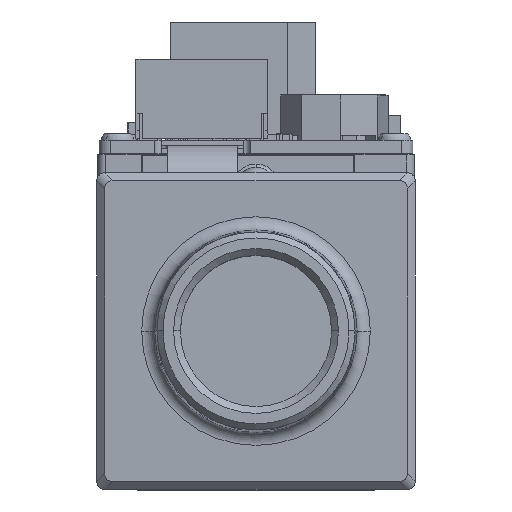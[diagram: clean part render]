
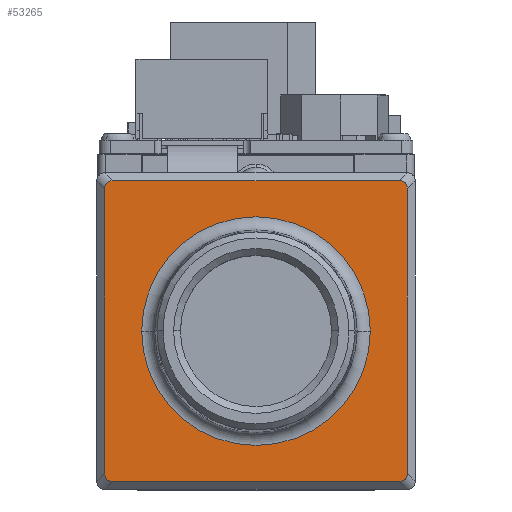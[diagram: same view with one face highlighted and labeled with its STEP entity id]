
A CAD part, top view. The second image highlights one B-rep face of the part: STEP entity #53265.
In plain terms, the highlighted planar face has unit normal (0, 0, 1).
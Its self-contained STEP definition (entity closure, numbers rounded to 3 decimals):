
#1230 = ORIENTED_EDGE ( 'NONE', *, *, #79289, .T. ) ;
#6088 = VERTEX_POINT ( 'NONE', #125257 ) ;
#6229 = EDGE_CURVE ( 'NONE', #14742, #6088, #63943, .T. ) ;
#6320 = CARTESIAN_POINT ( 'NONE',  ( 10.874, -11.4, 8. ) ) ;
#6875 = VECTOR ( 'NONE', #108490, 1000. ) ;
#7644 = EDGE_CURVE ( 'NONE', #45986, #23643, #99280, .T. ) ;
#8311 = PLANE ( 'NONE',  #26543 ) ;
#12085 = DIRECTION ( 'NONE',  ( -1., 0., 0. ) ) ;
#13673 =( BOUNDED_CURVE ( )  B_SPLINE_CURVE ( 3, ( #65181, #18564, #98002, #117811 ),
 .UNSPECIFIED., .F., .F. ) 
 B_SPLINE_CURVE_WITH_KNOTS ( ( 4, 4 ),
 ( 2.623, 3.675 ),
 .UNSPECIFIED. ) 
 CURVE ( )  GEOMETRIC_REPRESENTATION_ITEM ( )  RATIONAL_B_SPLINE_CURVE ( ( 1., 0.91, 0.91, 1. ) ) 
 REPRESENTATION_ITEM ( '' )  );
#14742 = VERTEX_POINT ( 'NONE', #144432 ) ;
#16106 = ORIENTED_EDGE ( 'NONE', *, *, #7644, .T. ) ;
#17969 = CARTESIAN_POINT ( 'NONE',  ( 11.255, -11.4, 8. ) ) ;
#18564 = CARTESIAN_POINT ( 'NONE',  ( -11.255, 11.4, 8. ) ) ;
#19366 = CARTESIAN_POINT ( 'NONE',  ( 11.475, -10.794, 8. ) ) ;
#19552 = ORIENTED_EDGE ( 'NONE', *, *, #117657, .T. ) ;
#23643 = VERTEX_POINT ( 'NONE', #46584 ) ;
#26543 = AXIS2_PLACEMENT_3D ( 'NONE', #132961, #87036, #131535 ) ;
#28496 = CARTESIAN_POINT ( 'NONE',  ( 11.475, 11.178, 8. ) ) ;
#29363 = EDGE_LOOP ( 'NONE', ( #119164, #16106 ) ) ;
#29557 = CARTESIAN_POINT ( 'NONE',  ( -11.475, 0., 8. ) ) ;
#32048 = CARTESIAN_POINT ( 'NONE',  ( 0., 11.4, 8. ) ) ;
#34210 = EDGE_CURVE ( 'NONE', #132474, #54367, #13673, .T. ) ;
#35971 = VERTEX_POINT ( 'NONE', #65020 ) ;
#36382 = AXIS2_PLACEMENT_3D ( 'NONE', #69511, #57833, #37379 ) ;
#36481 = EDGE_LOOP ( 'NONE', ( #131933, #68924, #50511, #1230, #19552, #140267, #52164, #109405 ) ) ;
#37379 = DIRECTION ( 'NONE',  ( -1., 0., 0. ) ) ;
#38893 = CARTESIAN_POINT ( 'NONE',  ( -11.475, -11.178, 8. ) ) ;
#39910 = EDGE_CURVE ( 'NONE', #54367, #35971, #76185, .T. ) ;
#45562 = AXIS2_PLACEMENT_3D ( 'NONE', #133161, #88682, #12085 ) ;
#45986 = VERTEX_POINT ( 'NONE', #58875 ) ;
#46584 = CARTESIAN_POINT ( 'NONE',  ( -8.666, 0., 8. ) ) ;
#49830 =( BOUNDED_CURVE ( )  B_SPLINE_CURVE ( 3, ( #51977, #38893, #83412, #73904 ),
 .UNSPECIFIED., .F., .T. ) 
 B_SPLINE_CURVE_WITH_KNOTS ( ( 4, 4 ),
 ( 2.608, 3.66 ),
 .UNSPECIFIED. ) 
 CURVE ( )  GEOMETRIC_REPRESENTATION_ITEM ( )  RATIONAL_B_SPLINE_CURVE ( ( 1., 0.91, 0.91, 1. ) ) 
 REPRESENTATION_ITEM ( '' )  );
#50511 = ORIENTED_EDGE ( 'NONE', *, *, #72472, .T. ) ;
#50832 = CARTESIAN_POINT ( 'NONE',  ( -10.874, 11.4, 8. ) ) ;
#50971 = LINE ( 'NONE', #138549, #72972 ) ;
#51977 = CARTESIAN_POINT ( 'NONE',  ( -11.475, -10.794, 8. ) ) ;
#52164 = ORIENTED_EDGE ( 'NONE', *, *, #39910, .T. ) ;
#53265 = ADVANCED_FACE ( 'NONE', ( #87761, #86334 ), #8311, .F. ) ;
#54367 = VERTEX_POINT ( 'NONE', #90580 ) ;
#54411 = VECTOR ( 'NONE', #98761, 1000. ) ;
#56073 = LINE ( 'NONE', #32048, #64738 ) ;
#57833 = DIRECTION ( 'NONE',  ( 0., 0., -1. ) ) ;
#58791 =( BOUNDED_CURVE ( )  B_SPLINE_CURVE ( 3, ( #129170, #28496, #97715, #105851 ),
 .UNSPECIFIED., .F., .F. ) 
 B_SPLINE_CURVE_WITH_KNOTS ( ( 4, 4 ),
 ( 5.749, 6.802 ),
 .UNSPECIFIED. ) 
 CURVE ( )  GEOMETRIC_REPRESENTATION_ITEM ( )  RATIONAL_B_SPLINE_CURVE ( ( 1., 0.91, 0.91, 1. ) ) 
 REPRESENTATION_ITEM ( '' )  );
#58875 = CARTESIAN_POINT ( 'NONE',  ( 8.666, 0., 8. ) ) ;
#63230 = VERTEX_POINT ( 'NONE', #114541 ) ;
#63943 =( BOUNDED_CURVE ( )  B_SPLINE_CURVE ( 3, ( #6320, #17969, #116483, #19366 ),
 .UNSPECIFIED., .F., .F. ) 
 B_SPLINE_CURVE_WITH_KNOTS ( ( 4, 4 ),
 ( 5.765, 6.817 ),
 .UNSPECIFIED. ) 
 CURVE ( )  GEOMETRIC_REPRESENTATION_ITEM ( )  RATIONAL_B_SPLINE_CURVE ( ( 1., 0.91, 0.91, 1. ) ) 
 REPRESENTATION_ITEM ( '' )  );
#64738 = VECTOR ( 'NONE', #121064, 1000. ) ;
#65020 = CARTESIAN_POINT ( 'NONE',  ( -11.475, -10.794, 8. ) ) ;
#65181 = CARTESIAN_POINT ( 'NONE',  ( -10.874, 11.4, 8. ) ) ;
#68924 = ORIENTED_EDGE ( 'NONE', *, *, #6229, .T. ) ;
#69511 = CARTESIAN_POINT ( 'NONE',  ( 0., 0., 8. ) ) ;
#72472 = EDGE_CURVE ( 'NONE', #6088, #141465, #50971, .T. ) ;
#72972 = VECTOR ( 'NONE', #84552, 1000. ) ;
#73904 = CARTESIAN_POINT ( 'NONE',  ( -10.874, -11.4, 8. ) ) ;
#75639 = CARTESIAN_POINT ( 'NONE',  ( 0., -11.4, 8. ) ) ;
#76185 = LINE ( 'NONE', #29557, #54411 ) ;
#76351 = LINE ( 'NONE', #75639, #6875 ) ;
#79289 = EDGE_CURVE ( 'NONE', #141465, #107962, #58791, .T. ) ;
#83412 = CARTESIAN_POINT ( 'NONE',  ( -11.255, -11.4, 8. ) ) ;
#84552 = DIRECTION ( 'NONE',  ( 0., 1., 0. ) ) ;
#86334 = FACE_OUTER_BOUND ( 'NONE', #36481, .T. ) ;
#87036 = DIRECTION ( 'NONE',  ( 0., 0., -1. ) ) ;
#87761 = FACE_BOUND ( 'NONE', #29363, .T. ) ;
#88682 = DIRECTION ( 'NONE',  ( 0., 0., -1. ) ) ;
#90580 = CARTESIAN_POINT ( 'NONE',  ( -11.475, 10.794, 8. ) ) ;
#94822 = CARTESIAN_POINT ( 'NONE',  ( 11.475, 10.794, 8. ) ) ;
#97715 = CARTESIAN_POINT ( 'NONE',  ( 11.255, 11.4, 8. ) ) ;
#98002 = CARTESIAN_POINT ( 'NONE',  ( -11.475, 11.178, 8. ) ) ;
#98761 = DIRECTION ( 'NONE',  ( 0., -1., 0. ) ) ;
#99280 = CIRCLE ( 'NONE', #36382, 8.666 ) ;
#105851 = CARTESIAN_POINT ( 'NONE',  ( 10.874, 11.4, 8. ) ) ;
#107962 = VERTEX_POINT ( 'NONE', #122696 ) ;
#108490 = DIRECTION ( 'NONE',  ( 1., 0., 0. ) ) ;
#109405 = ORIENTED_EDGE ( 'NONE', *, *, #122155, .T. ) ;
#114541 = CARTESIAN_POINT ( 'NONE',  ( -10.874, -11.4, 8. ) ) ;
#116483 = CARTESIAN_POINT ( 'NONE',  ( 11.475, -11.178, 8. ) ) ;
#117657 = EDGE_CURVE ( 'NONE', #107962, #132474, #56073, .T. ) ;
#117811 = CARTESIAN_POINT ( 'NONE',  ( -11.475, 10.794, 8. ) ) ;
#119164 = ORIENTED_EDGE ( 'NONE', *, *, #132661, .T. ) ;
#120278 = EDGE_CURVE ( 'NONE', #63230, #14742, #76351, .T. ) ;
#121064 = DIRECTION ( 'NONE',  ( -1., 0., 0. ) ) ;
#122155 = EDGE_CURVE ( 'NONE', #35971, #63230, #49830, .T. ) ;
#122696 = CARTESIAN_POINT ( 'NONE',  ( 10.874, 11.4, 8. ) ) ;
#125257 = CARTESIAN_POINT ( 'NONE',  ( 11.475, -10.794, 8. ) ) ;
#129170 = CARTESIAN_POINT ( 'NONE',  ( 11.475, 10.794, 8. ) ) ;
#131535 = DIRECTION ( 'NONE',  ( -1., 0., 0. ) ) ;
#131933 = ORIENTED_EDGE ( 'NONE', *, *, #120278, .T. ) ;
#132474 = VERTEX_POINT ( 'NONE', #50832 ) ;
#132661 = EDGE_CURVE ( 'NONE', #23643, #45986, #143503, .T. ) ;
#132961 = CARTESIAN_POINT ( 'NONE',  ( 0., 0., 8. ) ) ;
#133161 = CARTESIAN_POINT ( 'NONE',  ( 0., 0., 8. ) ) ;
#138549 = CARTESIAN_POINT ( 'NONE',  ( 11.475, 0., 8. ) ) ;
#140267 = ORIENTED_EDGE ( 'NONE', *, *, #34210, .T. ) ;
#141465 = VERTEX_POINT ( 'NONE', #94822 ) ;
#143503 = CIRCLE ( 'NONE', #45562, 8.666 ) ;
#144432 = CARTESIAN_POINT ( 'NONE',  ( 10.874, -11.4, 8. ) ) ;
